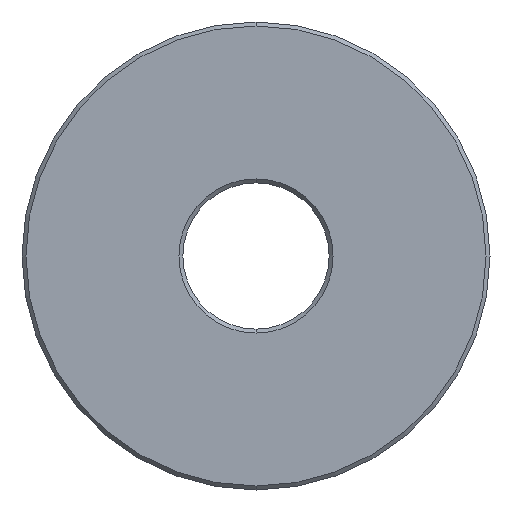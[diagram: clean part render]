
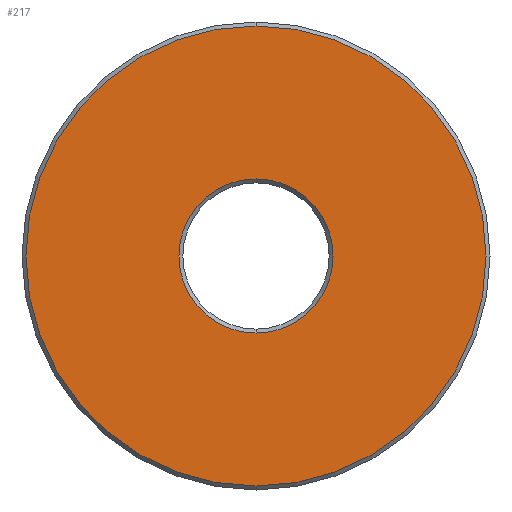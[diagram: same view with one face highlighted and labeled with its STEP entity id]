
A CAD part, front view. The second image highlights one B-rep face of the part: STEP entity #217.
In plain terms, the highlighted planar face has unit normal (0, -1, 0).
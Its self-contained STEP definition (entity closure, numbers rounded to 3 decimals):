
#17 = CARTESIAN_POINT ( 'NONE',  ( 0., 0., 7.865 ) ) ;
#33 = CARTESIAN_POINT ( 'NONE',  ( 0., 0., 0. ) ) ;
#44 = CARTESIAN_POINT ( 'NONE',  ( 0., 0., -2.635 ) ) ;
#66 = ORIENTED_EDGE ( 'NONE', *, *, #420, .F. ) ;
#78 = DIRECTION ( 'NONE',  ( 0., -1., 0. ) ) ;
#83 = CIRCLE ( 'NONE', #171, 7.865 ) ;
#102 = CIRCLE ( 'NONE', #537, 2.635 ) ;
#119 = DIRECTION ( 'NONE',  ( 0., 0., -1. ) ) ;
#123 = CARTESIAN_POINT ( 'NONE',  ( 0., 0., -7.865 ) ) ;
#135 = ORIENTED_EDGE ( 'NONE', *, *, #578, .T. ) ;
#147 = AXIS2_PLACEMENT_3D ( 'NONE', #44, #593, #119 ) ;
#171 = AXIS2_PLACEMENT_3D ( 'NONE', #271, #522, #417 ) ;
#179 = DIRECTION ( 'NONE',  ( 0., 0., -1. ) ) ;
#180 = EDGE_LOOP ( 'NONE', ( #462, #66 ) ) ;
#217 = ADVANCED_FACE ( 'NONE', ( #649, #579 ), #375, .T. ) ;
#231 = EDGE_CURVE ( 'NONE', #350, #500, #102, .T. ) ;
#234 = DIRECTION ( 'NONE',  ( 0., 0., -1. ) ) ;
#256 = CARTESIAN_POINT ( 'NONE',  ( 0., 0., 0. ) ) ;
#257 = VERTEX_POINT ( 'NONE', #123 ) ;
#262 = DIRECTION ( 'NONE',  ( 0., -1., 0. ) ) ;
#271 = CARTESIAN_POINT ( 'NONE',  ( 0., 0., 0. ) ) ;
#306 = DIRECTION ( 'NONE',  ( 0., -1., 0. ) ) ;
#333 = CARTESIAN_POINT ( 'NONE',  ( 0., 0., 0. ) ) ;
#342 = EDGE_LOOP ( 'NONE', ( #135, #668 ) ) ;
#350 = VERTEX_POINT ( 'NONE', #435 ) ;
#375 = PLANE ( 'NONE',  #147 ) ;
#403 = CIRCLE ( 'NONE', #413, 7.865 ) ;
#413 = AXIS2_PLACEMENT_3D ( 'NONE', #256, #78, #234 ) ;
#417 = DIRECTION ( 'NONE',  ( 0., 0., -1. ) ) ;
#420 = EDGE_CURVE ( 'NONE', #500, #350, #571, .T. ) ;
#435 = CARTESIAN_POINT ( 'NONE',  ( 0., 0., -2.635 ) ) ;
#462 = ORIENTED_EDGE ( 'NONE', *, *, #231, .F. ) ;
#500 = VERTEX_POINT ( 'NONE', #631 ) ;
#522 = DIRECTION ( 'NONE',  ( 0., -1., 0. ) ) ;
#525 = AXIS2_PLACEMENT_3D ( 'NONE', #33, #306, #623 ) ;
#537 = AXIS2_PLACEMENT_3D ( 'NONE', #333, #262, #179 ) ;
#571 = CIRCLE ( 'NONE', #525, 2.635 ) ;
#578 = EDGE_CURVE ( 'NONE', #678, #257, #83, .T. ) ;
#579 = FACE_BOUND ( 'NONE', #180, .T. ) ;
#593 = DIRECTION ( 'NONE',  ( 0., -1., 0. ) ) ;
#623 = DIRECTION ( 'NONE',  ( 0., 0., -1. ) ) ;
#631 = CARTESIAN_POINT ( 'NONE',  ( 0., 0., 2.635 ) ) ;
#633 = EDGE_CURVE ( 'NONE', #257, #678, #403, .T. ) ;
#649 = FACE_OUTER_BOUND ( 'NONE', #342, .T. ) ;
#668 = ORIENTED_EDGE ( 'NONE', *, *, #633, .T. ) ;
#678 = VERTEX_POINT ( 'NONE', #17 ) ;
